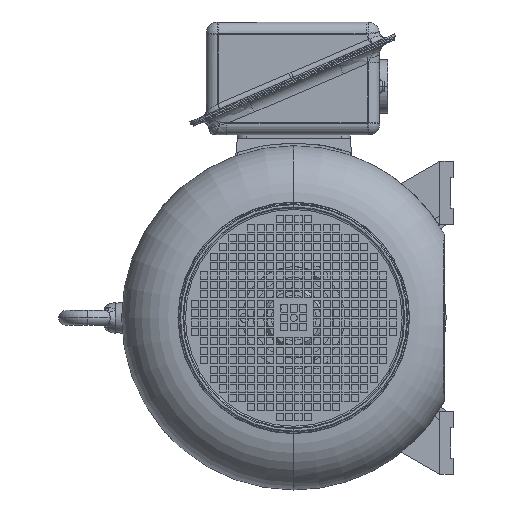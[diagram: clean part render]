
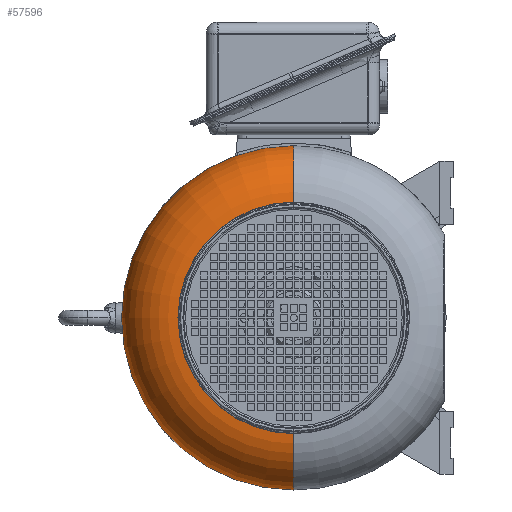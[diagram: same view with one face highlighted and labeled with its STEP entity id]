
A CAD part, left-side view. The second image highlights one B-rep face of the part: STEP entity #57596.
In plain terms, the highlighted toroidal (fillet/blend) face has major radius 125.5 mm and minor radius 66.5 mm.
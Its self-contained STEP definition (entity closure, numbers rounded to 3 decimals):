
#2009 = EDGE_CURVE ( 'NONE', #87025, #18204, #39530, .T. ) ;
#2330 = DIRECTION ( 'NONE',  ( 0., 1., 0. ) ) ;
#3066 = DIRECTION ( 'NONE',  ( -1., 0., 0. ) ) ;
#13036 = FACE_OUTER_BOUND ( 'NONE', #72866, .T. ) ;
#13114 = EDGE_CURVE ( 'NONE', #85697, #62927, #13942, .T. ) ;
#13942 = CIRCLE ( 'NONE', #31318, 129.15 ) ;
#15641 = DIRECTION ( 'NONE',  ( 1., 0., 0. ) ) ;
#18204 = VERTEX_POINT ( 'NONE', #62646 ) ;
#18889 = EDGE_CURVE ( 'NONE', #87025, #85697, #38006, .T. ) ;
#22019 = EDGE_CURVE ( 'NONE', #18204, #62927, #40986, .T. ) ;
#25041 = TOROIDAL_SURFACE ( 'NONE', #94951, 125.5, 66.5 ) ;
#25330 = ORIENTED_EDGE ( 'NONE', *, *, #18889, .F. ) ;
#31318 = AXIS2_PLACEMENT_3D ( 'NONE', #31961, #48639, #56449 ) ;
#31961 = CARTESIAN_POINT ( 'NONE',  ( -390.545, -24.414, -5.25 ) ) ;
#33955 = ORIENTED_EDGE ( 'NONE', *, *, #13114, .F. ) ;
#37149 = CARTESIAN_POINT ( 'NONE',  ( -390.545, -24.414, 123.9 ) ) ;
#38006 = CIRCLE ( 'NONE', #47458, 66.5 ) ;
#39530 = CIRCLE ( 'NONE', #66350, 192. ) ;
#40656 = DIRECTION ( 'NONE',  ( 0., 0., 1. ) ) ;
#40986 = CIRCLE ( 'NONE', #42387, 66.5 ) ;
#41716 = CARTESIAN_POINT ( 'NONE',  ( -324.145, -24.414, -5.25 ) ) ;
#42387 = AXIS2_PLACEMENT_3D ( 'NONE', #63803, #2330, #40656 ) ;
#44287 = CARTESIAN_POINT ( 'NONE',  ( -324.145, -24.414, 186.75 ) ) ;
#47458 = AXIS2_PLACEMENT_3D ( 'NONE', #86582, #69994, #15641 ) ;
#48639 = DIRECTION ( 'NONE',  ( -1., 0., 0. ) ) ;
#56449 = DIRECTION ( 'NONE',  ( 0., 0., 1. ) ) ;
#57360 = DIRECTION ( 'NONE',  ( 0., 0., 1. ) ) ;
#57596 = ADVANCED_FACE ( 'NONE', ( #13036 ), #25041, .T. ) ;
#62584 = CARTESIAN_POINT ( 'NONE',  ( -390.545, -24.414, -134.4 ) ) ;
#62646 = CARTESIAN_POINT ( 'NONE',  ( -324.145, -24.414, -197.25 ) ) ;
#62927 = VERTEX_POINT ( 'NONE', #62584 ) ;
#63803 = CARTESIAN_POINT ( 'NONE',  ( -324.145, -24.414, -130.75 ) ) ;
#66350 = AXIS2_PLACEMENT_3D ( 'NONE', #41716, #3066, #57360 ) ;
#69994 = DIRECTION ( 'NONE',  ( 0., -1., 0. ) ) ;
#72866 = EDGE_LOOP ( 'NONE', ( #89347, #85185, #33955, #25330 ) ) ;
#76620 = DIRECTION ( 'NONE',  ( -1., 0., 0. ) ) ;
#85089 = CARTESIAN_POINT ( 'NONE',  ( -324.145, -24.414, -5.25 ) ) ;
#85185 = ORIENTED_EDGE ( 'NONE', *, *, #22019, .T. ) ;
#85697 = VERTEX_POINT ( 'NONE', #37149 ) ;
#86582 = CARTESIAN_POINT ( 'NONE',  ( -324.145, -24.414, 120.25 ) ) ;
#87025 = VERTEX_POINT ( 'NONE', #44287 ) ;
#89347 = ORIENTED_EDGE ( 'NONE', *, *, #2009, .T. ) ;
#94951 = AXIS2_PLACEMENT_3D ( 'NONE', #85089, #76620, #100088 ) ;
#100088 = DIRECTION ( 'NONE',  ( 0., 0., 1. ) ) ;
